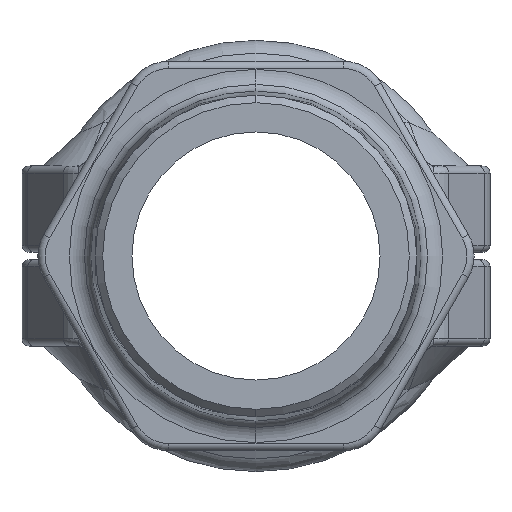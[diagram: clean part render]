
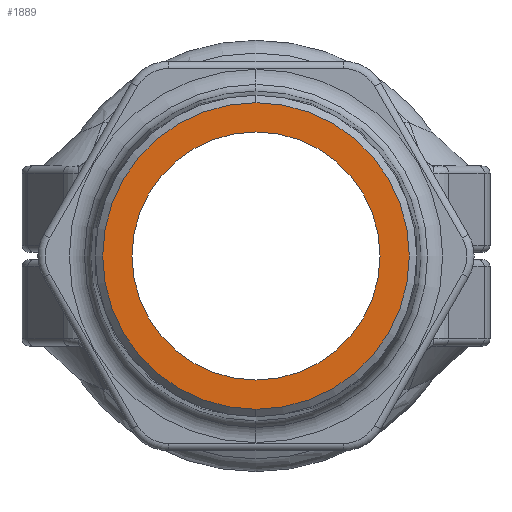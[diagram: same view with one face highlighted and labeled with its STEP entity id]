
A CAD part, left-side view. The second image highlights one B-rep face of the part: STEP entity #1889.
In plain terms, the highlighted planar face has unit normal (-1, 0, 0).
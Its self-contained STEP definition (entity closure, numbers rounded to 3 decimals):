
#805=CARTESIAN_POINT('',(-80.898,0.,0.));
#806=DIRECTION('',(1.,0.,0.));
#807=DIRECTION('',(0.,0.,-1.));
#808=AXIS2_PLACEMENT_3D('',#805,#806,#807);
#813=CARTESIAN_POINT('',(-80.898,0.,0.));
#814=DIRECTION('',(1.,0.,0.));
#815=DIRECTION('',(0.,0.,1.));
#816=AXIS2_PLACEMENT_3D('',#813,#814,#815);
#821=CARTESIAN_POINT('',(-80.898,0.,0.));
#822=DIRECTION('',(-1.,0.,0.));
#823=DIRECTION('',(0.,0.,-1.));
#824=AXIS2_PLACEMENT_3D('',#821,#822,#823);
#829=CARTESIAN_POINT('',(-80.898,0.,0.));
#830=DIRECTION('',(-1.,0.,0.));
#831=DIRECTION('',(0.,0.,1.));
#832=AXIS2_PLACEMENT_3D('',#829,#830,#831);
#1153=CARTESIAN_POINT('',(-80.898,0.,-21.288));
#1154=VERTEX_POINT('',#1153);
#1155=CARTESIAN_POINT('',(-80.898,0.,21.288));
#1156=VERTEX_POINT('',#1155);
#1157=CARTESIAN_POINT('',(-80.898,0.,-17.229));
#1158=CARTESIAN_POINT('',(-80.898,0.,17.229));
#1159=VERTEX_POINT('',#1157);
#1160=VERTEX_POINT('',#1158);
#1874=CARTESIAN_POINT('',(-80.898,17.229,0.));
#1875=DIRECTION('',(-1.,0.,0.));
#1876=DIRECTION('',(0.,0.,1.));
#1877=AXIS2_PLACEMENT_3D('',#1874,#1875,#1876);
#1878=PLANE('',#1877);
#1879=ORIENTED_EDGE('',*,*,#1868,.T.);
#1880=ORIENTED_EDGE('',*,*,#1854,.T.);
#1881=EDGE_LOOP('',(#1879,#1880));
#1882=FACE_OUTER_BOUND('',#1881,.F.);
#1884=ORIENTED_EDGE('',*,*,#1883,.T.);
#1886=ORIENTED_EDGE('',*,*,#1885,.T.);
#1887=EDGE_LOOP('',(#1884,#1886));
#1888=FACE_BOUND('',#1887,.F.);
#809=CIRCLE('',#808,21.288);
#817=CIRCLE('',#816,21.288);
#825=CIRCLE('',#824,17.229);
#833=CIRCLE('',#832,17.229);
#1854=EDGE_CURVE('',#1156,#1154,#817,.T.);
#1868=EDGE_CURVE('',#1154,#1156,#809,.T.);
#1883=EDGE_CURVE('',#1159,#1160,#825,.T.);
#1885=EDGE_CURVE('',#1160,#1159,#833,.T.);
#1889=ADVANCED_FACE('',(#1882,#1888),#1878,.T.);
